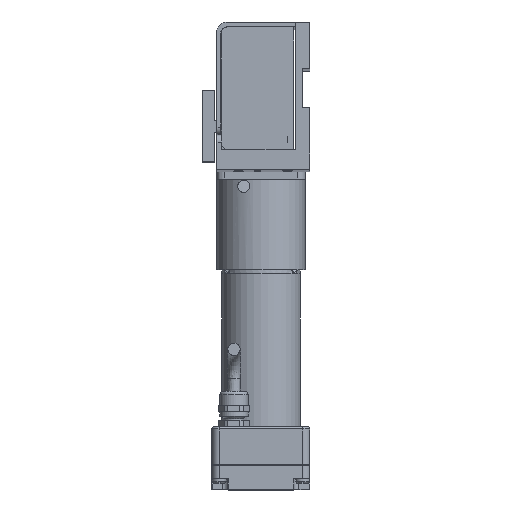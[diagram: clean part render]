
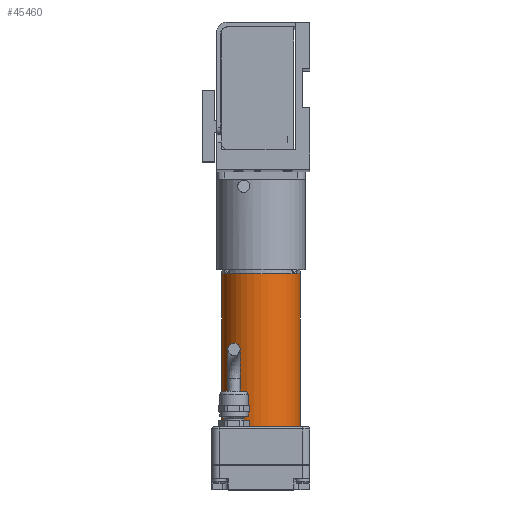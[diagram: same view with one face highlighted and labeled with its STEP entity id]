
A CAD part, top view. The second image highlights one B-rep face of the part: STEP entity #45460.
In plain terms, the highlighted cylindrical face has radius 16 mm (diameter 32 mm), a full revolution.
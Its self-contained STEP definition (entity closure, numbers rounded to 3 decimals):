
#42760 = PLANE('',#42761);
#42761 = AXIS2_PLACEMENT_3D('',#42762,#42763,#42764);
#42762 = CARTESIAN_POINT('',(-34.,20.,0.));
#42763 = DIRECTION('',(0.,0.,-1.));
#42764 = DIRECTION('',(-1.,0.,0.));
#45396 = EDGE_CURVE('',#45397,#45397,#45399,.T.);
#45397 = VERTEX_POINT('',#45398);
#45398 = CARTESIAN_POINT('',(16.,0.,62.4));
#45399 = SURFACE_CURVE('',#45400,(#45405,#45417),.PCURVE_S1.);
#45400 = CIRCLE('',#45401,16.);
#45401 = AXIS2_PLACEMENT_3D('',#45402,#45403,#45404);
#45402 = CARTESIAN_POINT('',(0.,0.,62.4));
#45403 = DIRECTION('',(0.,0.,1.));
#45404 = DIRECTION('',(1.,0.,0.));
#45405 = PCURVE('',#45406,#45411);
#45406 = PLANE('',#45407);
#45407 = AXIS2_PLACEMENT_3D('',#45408,#45409,#45410);
#45408 = CARTESIAN_POINT('',(0.,15.9,62.4));
#45409 = DIRECTION('',(0.,0.,1.));
#45410 = DIRECTION('',(1.,0.,0.));
#45411 = DEFINITIONAL_REPRESENTATION('',(#45412),#45416);
#45412 = CIRCLE('',#45413,16.);
#45413 = AXIS2_PLACEMENT_2D('',#45414,#45415);
#45414 = CARTESIAN_POINT('',(0.,-15.9));
#45415 = DIRECTION('',(1.,0.));
#45416 = ( GEOMETRIC_REPRESENTATION_CONTEXT(2) 
PARAMETRIC_REPRESENTATION_CONTEXT() REPRESENTATION_CONTEXT('2D SPACE',''
  ) );
#45417 = PCURVE('',#45418,#45423);
#45418 = CYLINDRICAL_SURFACE('',#45419,16.);
#45419 = AXIS2_PLACEMENT_3D('',#45420,#45421,#45422);
#45420 = CARTESIAN_POINT('',(0.,0.,-0.));
#45421 = DIRECTION('',(0.,0.,1.));
#45422 = DIRECTION('',(1.,0.,0.));
#45423 = DEFINITIONAL_REPRESENTATION('',(#45424),#45428);
#45424 = LINE('',#45425,#45426);
#45425 = CARTESIAN_POINT('',(0.,62.4));
#45426 = VECTOR('',#45427,1.);
#45427 = DIRECTION('',(1.,0.));
#45428 = ( GEOMETRIC_REPRESENTATION_CONTEXT(2) 
PARAMETRIC_REPRESENTATION_CONTEXT() REPRESENTATION_CONTEXT('2D SPACE',''
  ) );
#45460 = ADVANCED_FACE('',(#45461),#45418,.T.);
#45461 = FACE_BOUND('',#45462,.T.);
#45462 = EDGE_LOOP('',(#45463,#45491,#45511,#45512));
#45463 = ORIENTED_EDGE('',*,*,#45464,.T.);
#45464 = EDGE_CURVE('',#45465,#45465,#45467,.T.);
#45465 = VERTEX_POINT('',#45466);
#45466 = CARTESIAN_POINT('',(16.,0.,0.));
#45467 = SURFACE_CURVE('',#45468,(#45473,#45480),.PCURVE_S1.);
#45468 = CIRCLE('',#45469,16.);
#45469 = AXIS2_PLACEMENT_3D('',#45470,#45471,#45472);
#45470 = CARTESIAN_POINT('',(0.,0.,0.));
#45471 = DIRECTION('',(0.,0.,1.));
#45472 = DIRECTION('',(1.,0.,0.));
#45473 = PCURVE('',#45418,#45474);
#45474 = DEFINITIONAL_REPRESENTATION('',(#45475),#45479);
#45475 = LINE('',#45476,#45477);
#45476 = CARTESIAN_POINT('',(0.,0.));
#45477 = VECTOR('',#45478,1.);
#45478 = DIRECTION('',(1.,0.));
#45479 = ( GEOMETRIC_REPRESENTATION_CONTEXT(2) 
PARAMETRIC_REPRESENTATION_CONTEXT() REPRESENTATION_CONTEXT('2D SPACE',''
  ) );
#45480 = PCURVE('',#42760,#45481);
#45481 = DEFINITIONAL_REPRESENTATION('',(#45482),#45490);
#45482 = ( BOUNDED_CURVE() B_SPLINE_CURVE(2,(#45483,#45484,#45485,#45486
    ,#45487,#45488,#45489),.UNSPECIFIED.,.T.,.F.) 
B_SPLINE_CURVE_WITH_KNOTS((1,2,2,2,2,1),(-2.094,0.,
    2.094,4.189,6.283,8.378),
.UNSPECIFIED.) CURVE() GEOMETRIC_REPRESENTATION_ITEM() 
RATIONAL_B_SPLINE_CURVE((1.,0.5,1.,0.5,1.,0.5,1.)) REPRESENTATION_ITEM(
  '') );
#45483 = CARTESIAN_POINT('',(-50.,-20.));
#45484 = CARTESIAN_POINT('',(-50.,7.713));
#45485 = CARTESIAN_POINT('',(-26.,-6.144));
#45486 = CARTESIAN_POINT('',(-2.,-20.));
#45487 = CARTESIAN_POINT('',(-26.,-33.856));
#45488 = CARTESIAN_POINT('',(-50.,-47.713));
#45489 = CARTESIAN_POINT('',(-50.,-20.));
#45490 = ( GEOMETRIC_REPRESENTATION_CONTEXT(2) 
PARAMETRIC_REPRESENTATION_CONTEXT() REPRESENTATION_CONTEXT('2D SPACE',''
  ) );
#45491 = ORIENTED_EDGE('',*,*,#45492,.T.);
#45492 = EDGE_CURVE('',#45465,#45397,#45493,.T.);
#45493 = SEAM_CURVE('',#45494,(#45497,#45504),.PCURVE_S1.);
#45494 = B_SPLINE_CURVE_WITH_KNOTS('',1,(#45495,#45496),.UNSPECIFIED.,
  .F.,.F.,(2,2),(0.,62.4),.PIECEWISE_BEZIER_KNOTS.);
#45495 = CARTESIAN_POINT('',(16.,0.,0.));
#45496 = CARTESIAN_POINT('',(16.,0.,62.4));
#45497 = PCURVE('',#45418,#45498);
#45498 = DEFINITIONAL_REPRESENTATION('',(#45499),#45503);
#45499 = LINE('',#45500,#45501);
#45500 = CARTESIAN_POINT('',(6.283,0.));
#45501 = VECTOR('',#45502,1.);
#45502 = DIRECTION('',(0.,1.));
#45503 = ( GEOMETRIC_REPRESENTATION_CONTEXT(2) 
PARAMETRIC_REPRESENTATION_CONTEXT() REPRESENTATION_CONTEXT('2D SPACE',''
  ) );
#45504 = PCURVE('',#45418,#45505);
#45505 = DEFINITIONAL_REPRESENTATION('',(#45506),#45510);
#45506 = LINE('',#45507,#45508);
#45507 = CARTESIAN_POINT('',(0.,0.));
#45508 = VECTOR('',#45509,1.);
#45509 = DIRECTION('',(0.,1.));
#45510 = ( GEOMETRIC_REPRESENTATION_CONTEXT(2) 
PARAMETRIC_REPRESENTATION_CONTEXT() REPRESENTATION_CONTEXT('2D SPACE',''
  ) );
#45511 = ORIENTED_EDGE('',*,*,#45396,.F.);
#45512 = ORIENTED_EDGE('',*,*,#45492,.F.);
